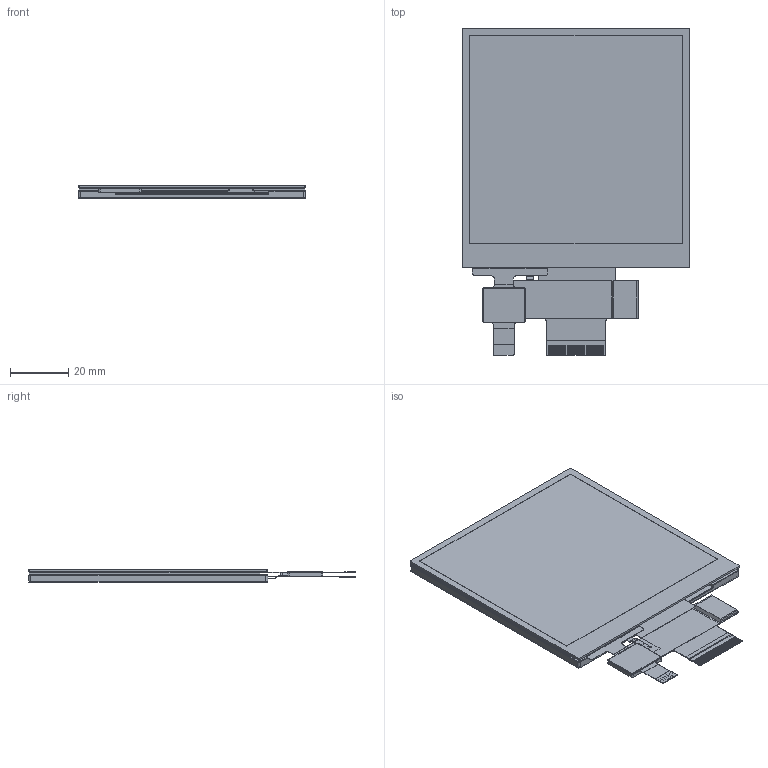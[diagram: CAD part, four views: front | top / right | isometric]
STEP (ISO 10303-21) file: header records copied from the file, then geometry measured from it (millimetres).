
FILE_DESCRIPTION (( 'STEP AP203' ), '1' );
FILE_NAME ('NHD-4.0-480480AF-ASXP-CTP.STEP', '2025-05-02T16:30:58', ( '' ), ( '' ), 'SwSTEP 2.0', 'SolidWorks 2019', '' );
FILE_SCHEMA (( 'CONFIG_CONTROL_DESIGN' ));
Length unit declared in the file: millimetre
Products named in the file (1): NHD-4.0-480480AF-ASXP-CTP
Bounding box: 77.86 x 111.84 x 4.15 mm (x, y, z)
Volume: 25377.5 mm3; surface area: 141032.4 mm2
Topology: 75 solids, 75 shells, 685 faces, 1593 edges, 1058 vertices
Faces by surface type: plane 578, cylinder 107
Entity records: 19214 total; most frequent: CARTESIAN_POINT 3337, ORIENTED_EDGE 3186, DIRECTION 3179, EDGE_CURVE 1593, LINE 1379, VECTOR 1379, VERTEX_POINT 1058, AXIS2_PLACEMENT_3D 900
